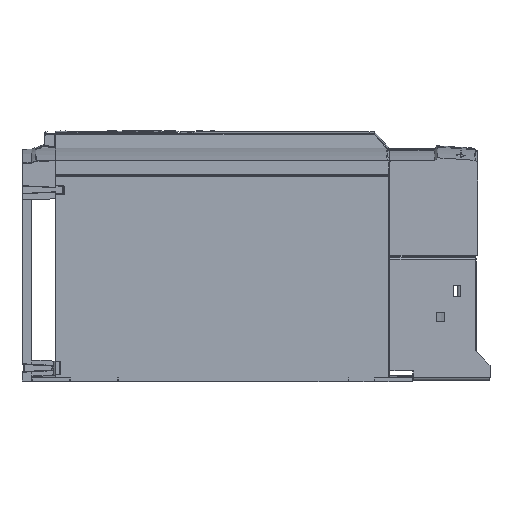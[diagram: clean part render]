
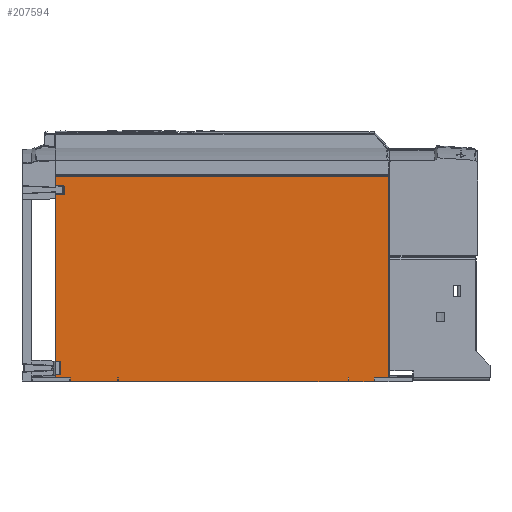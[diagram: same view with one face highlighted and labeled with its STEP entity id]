
A CAD part, left-side view. The second image highlights one B-rep face of the part: STEP entity #207594.
In plain terms, the highlighted planar face has unit normal (-1, 0, 0).
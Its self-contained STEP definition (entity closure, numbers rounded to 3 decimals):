
#75544=CARTESIAN_POINT('',(-82.5,-174.5,3.768));
#75570=CARTESIAN_POINT('',(-82.5,174.75,3.768));
#76919=DIRECTION('',(0.,0.,1.));
#76920=VECTOR('',#76919,3.768);
#76921=CARTESIAN_POINT('',(-82.5,159.156,0.));
#76922=LINE('',#76921,#76920);
#76973=CARTESIAN_POINT('',(-82.5,174.27,205.45));
#76974=CARTESIAN_POINT('',(-82.5,174.43,205.457));
#76975=CARTESIAN_POINT('',(-82.5,174.59,205.464));
#76976=CARTESIAN_POINT('',(-82.5,174.75,205.471));
#76981=DIRECTION('',(0.,0.,1.));
#76982=VECTOR('',#76981,9.179);
#76983=CARTESIAN_POINT('',(-82.5,174.75,205.471));
#76984=LINE('',#76983,#76982);
#76988=DIRECTION('',(0.,1.,0.));
#76989=VECTOR('',#76988,349.25);
#76990=CARTESIAN_POINT('',(-82.5,-174.5,214.65));
#76991=LINE('',#76990,#76989);
#76995=DIRECTION('',(0.,0.,-1.));
#76996=VECTOR('',#76995,210.882);
#76997=CARTESIAN_POINT('',(-82.5,-174.5,214.65));
#76998=LINE('',#76997,#76996);
#77002=DIRECTION('',(0.,1.,0.));
#77003=VECTOR('',#77002,14.95);
#77004=CARTESIAN_POINT('',(-82.5,-174.5,3.768));
#77005=LINE('',#77004,#77003);
#77009=DIRECTION('',(0.,0.,1.));
#77010=VECTOR('',#77009,3.768);
#77011=CARTESIAN_POINT('',(-82.5,-132.589,0.));
#77012=LINE('',#77011,#77010);
#77016=DIRECTION('',(0.,1.,0.));
#77017=VECTOR('',#77016,0.5);
#77018=CARTESIAN_POINT('',(-82.5,-132.589,3.768));
#77019=LINE('',#77018,#77017);
#77023=DIRECTION('',(0.,0.,-1.));
#77024=VECTOR('',#77023,3.775);
#77025=CARTESIAN_POINT('',(-82.5,-132.089,3.768));
#77026=LINE('',#77025,#77024);
#77030=DIRECTION('',(0.,1.,0.));
#77031=VECTOR('',#77030,241.178);
#77032=CARTESIAN_POINT('',(-82.5,-132.089,-0.007));
#77033=LINE('',#77032,#77031);
#77037=DIRECTION('',(0.,0.,1.));
#77038=VECTOR('',#77037,3.775);
#77039=CARTESIAN_POINT('',(-82.5,109.089,-0.007));
#77040=LINE('',#77039,#77038);
#77044=DIRECTION('',(0.,1.,0.));
#77045=VECTOR('',#77044,0.5);
#77046=CARTESIAN_POINT('',(-82.5,109.089,3.768));
#77047=LINE('',#77046,#77045);
#77051=DIRECTION('',(0.,0.,1.));
#77052=VECTOR('',#77051,3.768);
#77053=CARTESIAN_POINT('',(-82.5,109.589,0.));
#77054=LINE('',#77053,#77052);
#77058=DIRECTION('',(0.,1.,0.));
#77059=VECTOR('',#77058,15.594);
#77060=CARTESIAN_POINT('',(-82.5,159.156,3.768));
#77061=LINE('',#77060,#77059);
#77065=DIRECTION('',(0.,0.,1.));
#77066=VECTOR('',#77065,192.182);
#77067=CARTESIAN_POINT('',(-82.5,174.75,3.768));
#77068=LINE('',#77067,#77066);
#77072=DIRECTION('',(0.,1.,0.));
#77073=VECTOR('',#77072,8.854);
#77074=CARTESIAN_POINT('',(-82.5,165.896,195.95));
#77075=LINE('',#77074,#77073);
#77079=DIRECTION('',(0.,0.,-1.));
#77080=VECTOR('',#77079,9.);
#77081=CARTESIAN_POINT('',(-82.5,165.896,
204.95));
#77082=LINE('',#77081,#77080);
#77086=CARTESIAN_POINT('',(-82.5,165.896,
204.95));
#77087=CARTESIAN_POINT('',(-82.5,165.896,
204.967));
#77088=CARTESIAN_POINT('',(-82.5,165.899,
205.001));
#77089=CARTESIAN_POINT('',(-82.5,165.911,
205.055));
#77090=CARTESIAN_POINT('',(-82.5,165.932,
205.111));
#77091=CARTESIAN_POINT('',(-82.5,165.966,
205.17));
#77092=CARTESIAN_POINT('',(-82.5,166.013,
205.228));
#77093=CARTESIAN_POINT('',(-82.5,166.075,
205.285));
#77094=CARTESIAN_POINT('',(-82.5,166.152,
205.337));
#77095=CARTESIAN_POINT('',(-82.5,166.244,
205.383));
#77096=CARTESIAN_POINT('',(-82.5,166.352,
205.42));
#77097=CARTESIAN_POINT('',(-82.5,166.473,
205.444));
#77098=CARTESIAN_POINT('',(-82.5,166.559,
205.45));
#77099=CARTESIAN_POINT('',(-82.5,166.604,205.45));
#77104=DIRECTION('',(0.,1.,0.));
#77105=VECTOR('',#77104,7.667);
#77106=CARTESIAN_POINT('',(-82.5,166.604,205.45));
#77107=LINE('',#77106,#77105);
#170704=DIRECTION('',(0.,0.,1.));
#170705=VECTOR('',#170704,3.768);
#170706=CARTESIAN_POINT('',(-82.5,-159.55,0.));
#170707=LINE('',#170706,#170705);
#170739=DIRECTION('',(0.,-1.,0.));
#170740=VECTOR('',#170739,26.961);
#170741=CARTESIAN_POINT('',(-82.5,-132.589,0.));
#170742=LINE('',#170741,#170740);
#170874=DIRECTION('',(0.,-1.,0.));
#170875=VECTOR('',#170874,49.567);
#170876=CARTESIAN_POINT('',(-82.5,159.156,0.));
#170877=LINE('',#170876,#170875);
#179292=CARTESIAN_POINT('',(-82.5,-132.089,-0.007));
#179293=CARTESIAN_POINT('',(-82.5,109.089,-0.007));
#179294=VERTEX_POINT('',#179292);
#179295=VERTEX_POINT('',#179293);
#179301=CARTESIAN_POINT('',(-82.5,109.089,3.768));
#179303=VERTEX_POINT('',#179301);
#179305=CARTESIAN_POINT('',(-82.5,-132.089,3.768));
#179307=VERTEX_POINT('',#179305);
#179314=CARTESIAN_POINT('',(-82.5,-132.589,0.));
#179315=VERTEX_POINT('',#179314);
#179316=CARTESIAN_POINT('',(-82.5,-159.55,0.));
#179317=VERTEX_POINT('',#179316);
#179340=CARTESIAN_POINT('',(-82.5,-132.589,3.768));
#179341=VERTEX_POINT('',#179340);
#179342=CARTESIAN_POINT('',(-82.5,-159.55,3.768));
#179344=VERTEX_POINT('',#179342);
#179389=VERTEX_POINT('',#75544);
#179396=CARTESIAN_POINT('',(-82.5,109.589,0.));
#179397=VERTEX_POINT('',#179396);
#179398=CARTESIAN_POINT('',(-82.5,159.156,0.));
#179399=VERTEX_POINT('',#179398);
#179422=CARTESIAN_POINT('',(-82.5,109.589,3.768));
#179423=VERTEX_POINT('',#179422);
#179424=CARTESIAN_POINT('',(-82.5,159.156,3.768));
#179426=VERTEX_POINT('',#179424);
#179993=CARTESIAN_POINT('',(-82.5,-174.5,214.65));
#179995=VERTEX_POINT('',#179993);
#180526=CARTESIAN_POINT('',(-82.5,174.75,214.65));
#180528=VERTEX_POINT('',#180526);
#180530=VERTEX_POINT('',#75570);
#180591=VERTEX_POINT('',#77086);
#180592=VERTEX_POINT('',#77099);
#180597=CARTESIAN_POINT('',(-82.5,165.896,195.95));
#180598=VERTEX_POINT('',#180597);
#180796=CARTESIAN_POINT('',(-82.5,174.75,195.95));
#180797=VERTEX_POINT('',#180796);
#189467=VERTEX_POINT('',#76973);
#189468=VERTEX_POINT('',#76976);
#207548=CARTESIAN_POINT('',(-82.5,-175.,3.768));
#207549=DIRECTION('',(-1.,0.,0.));
#207550=DIRECTION('',(0.,0.,1.));
#207551=AXIS2_PLACEMENT_3D('',#207548,#207549,#207550);
#207552=PLANE('',#207551);
#207554=ORIENTED_EDGE('',*,*,#207553,.T.);
#207556=ORIENTED_EDGE('',*,*,#207555,.T.);
#207558=ORIENTED_EDGE('',*,*,#207557,.F.);
#207560=ORIENTED_EDGE('',*,*,#207559,.T.);
#207561=ORIENTED_EDGE('',*,*,#206303,.T.);
#207563=ORIENTED_EDGE('',*,*,#207562,.F.);
#207565=ORIENTED_EDGE('',*,*,#207564,.F.);
#207567=ORIENTED_EDGE('',*,*,#207566,.T.);
#207568=ORIENTED_EDGE('',*,*,#206269,.T.);
#207570=ORIENTED_EDGE('',*,*,#207569,.T.);
#207572=ORIENTED_EDGE('',*,*,#207571,.T.);
#207574=ORIENTED_EDGE('',*,*,#207573,.T.);
#207575=ORIENTED_EDGE('',*,*,#206261,.T.);
#207577=ORIENTED_EDGE('',*,*,#207576,.F.);
#207579=ORIENTED_EDGE('',*,*,#207578,.F.);
#207580=ORIENTED_EDGE('',*,*,#207520,.T.);
#207581=ORIENTED_EDGE('',*,*,#206315,.T.);
#207583=ORIENTED_EDGE('',*,*,#207582,.T.);
#207585=ORIENTED_EDGE('',*,*,#207584,.F.);
#207587=ORIENTED_EDGE('',*,*,#207586,.F.);
#207589=ORIENTED_EDGE('',*,*,#207588,.T.);
#207591=ORIENTED_EDGE('',*,*,#207590,.T.);
#207592=EDGE_LOOP('',(#207554,#207556,#207558,#207560,#207561,#207563,#207565,
#207567,#207568,#207570,#207572,#207574,#207575,#207577,#207579,#207580,#207581,
#207583,#207585,#207587,#207589,#207591));
#207593=FACE_OUTER_BOUND('',#207592,.F.);
#207594=ADVANCED_FACE('',(#207593),#207552,.T.);
#76977=B_SPLINE_CURVE_WITH_KNOTS('',3,(#76973,#76974,#76975,#76976),
.UNSPECIFIED.,.F.,.F.,(4,4),(0.,1.),.UNSPECIFIED.);
#77100=B_SPLINE_CURVE_WITH_KNOTS('',3,(#77086,#77087,#77088,#77089,#77090,
#77091,#77092,#77093,#77094,#77095,#77096,#77097,#77098,#77099),.UNSPECIFIED.,
.F.,.F.,(4,1,1,1,1,1,1,1,1,1,1,4),(0.,0.091,0.182,
0.273,0.364,0.455,0.545,
0.636,0.727,0.818,0.909,1.),
.UNSPECIFIED.);
#206261=EDGE_CURVE('',#179303,#179423,#77047,.T.);
#206269=EDGE_CURVE('',#179341,#179307,#77019,.T.);
#206303=EDGE_CURVE('',#179389,#179344,#77005,.T.);
#206315=EDGE_CURVE('',#179426,#180530,#77061,.T.);
#207520=EDGE_CURVE('',#179399,#179426,#76922,.T.);
#207553=EDGE_CURVE('',#189467,#189468,#76977,.T.);
#207555=EDGE_CURVE('',#189468,#180528,#76984,.T.);
#207557=EDGE_CURVE('',#179995,#180528,#76991,.T.);
#207559=EDGE_CURVE('',#179995,#179389,#76998,.T.);
#207562=EDGE_CURVE('',#179317,#179344,#170707,.T.);
#207564=EDGE_CURVE('',#179315,#179317,#170742,.T.);
#207566=EDGE_CURVE('',#179315,#179341,#77012,.T.);
#207569=EDGE_CURVE('',#179307,#179294,#77026,.T.);
#207571=EDGE_CURVE('',#179294,#179295,#77033,.T.);
#207573=EDGE_CURVE('',#179295,#179303,#77040,.T.);
#207576=EDGE_CURVE('',#179397,#179423,#77054,.T.);
#207578=EDGE_CURVE('',#179399,#179397,#170877,.T.);
#207582=EDGE_CURVE('',#180530,#180797,#77068,.T.);
#207584=EDGE_CURVE('',#180598,#180797,#77075,.T.);
#207586=EDGE_CURVE('',#180591,#180598,#77082,.T.);
#207588=EDGE_CURVE('',#180591,#180592,#77100,.T.);
#207590=EDGE_CURVE('',#180592,#189467,#77107,.T.);
